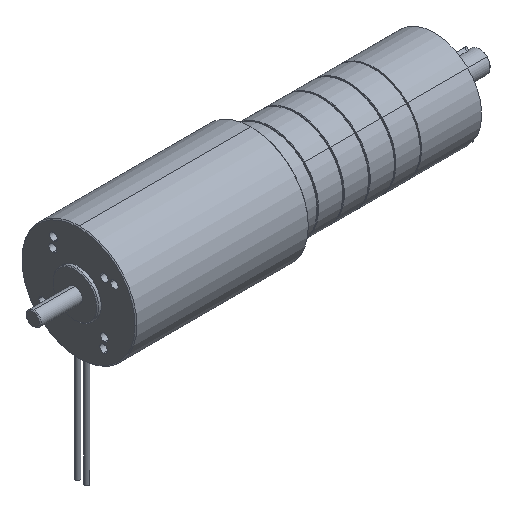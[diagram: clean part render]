
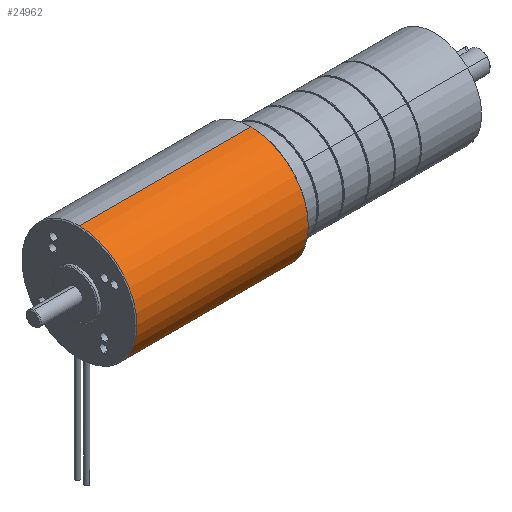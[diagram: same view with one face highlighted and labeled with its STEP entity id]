
A CAD part, isometric view. The second image highlights one B-rep face of the part: STEP entity #24962.
In plain terms, the highlighted cylindrical face has radius 31.5 mm (diameter 63 mm), a partial arc.
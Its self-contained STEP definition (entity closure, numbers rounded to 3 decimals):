
#1273 = CARTESIAN_POINT ( 'NONE',  ( 27.762, -3.494, -31.306 ) ) ;
#2738 = EDGE_CURVE ( 'NONE', #33876, #54540, #15900, .T. ) ;
#2829 = CARTESIAN_POINT ( 'NONE',  ( 27.328, -1.283, -31.474 ) ) ;
#3499 = CARTESIAN_POINT ( 'NONE',  ( 27.629, -1.408, -31.469 ) ) ;
#3782 = CARTESIAN_POINT ( 'NONE',  ( 25.5, 0., 0. ) ) ;
#3826 = AXIS2_PLACEMENT_3D ( 'NONE', #7312, #44879, #23269 ) ;
#4876 = EDGE_LOOP ( 'NONE', ( #65923, #40496 ) ) ;
#5748 = CARTESIAN_POINT ( 'NONE',  ( 26.834, -3.75, -31.276 ) ) ;
#6089 = CARTESIAN_POINT ( 'NONE',  ( 25.783, -2.827, -31.373 ) ) ;
#6421 = CARTESIAN_POINT ( 'NONE',  ( 25.75, -2.663, -31.388 ) ) ;
#7312 = CARTESIAN_POINT ( 'NONE',  ( 119.5, 0., 0. ) ) ;
#7949 = CARTESIAN_POINT ( 'NONE',  ( 25.814, -2.098, -31.43 ) ) ;
#8309 = CARTESIAN_POINT ( 'NONE',  ( 26.37, -1.408, -31.469 ) ) ;
#8667 = CARTESIAN_POINT ( 'NONE',  ( 26.673, -1.282, -31.474 ) ) ;
#9314 = LINE ( 'NONE', #41021, #24595 ) ;
#10894 = CARTESIAN_POINT ( 'NONE',  ( 26.23, -3.498, -31.305 ) ) ;
#11470 = DIRECTION ( 'NONE',  ( 0., 0., 1. ) ) ;
#13008 = ORIENTED_EDGE ( 'NONE', *, *, #26313, .F. ) ;
#13072 = B_SPLINE_CURVE_WITH_KNOTS ( 'NONE', 3,
 ( #27710, #43460, #64436, #17310, #50719, #19407, #51044, #24951, #3499, #2829, #30076, #40397, #8667, #8309, #51398, #55485, #50020, #7949, #34600, #39719, #29067, #29422 ),
 .UNSPECIFIED., .F., .F.,
 ( 4, 2, 2, 2, 2, 2, 2, 2, 2, 2, 4 ),
 ( 0., 0., 0.001, 0.001, 0.001, 0.002, 0.002, 0.003, 0.003, 0.004, 0.004 ),
 .UNSPECIFIED. ) ;
#13745 = CIRCLE ( 'NONE', #22597, 31.5 ) ;
#15900 = CIRCLE ( 'NONE', #3826, 31.5 ) ;
#16322 = CARTESIAN_POINT ( 'NONE',  ( -195.728, 0., 0. ) ) ;
#17134 = CARTESIAN_POINT ( 'NONE',  ( 28.217, -2.829, -31.373 ) ) ;
#17298 = EDGE_CURVE ( 'NONE', #17820, #52734, #13072, .T. ) ;
#17310 = CARTESIAN_POINT ( 'NONE',  ( 28.124, -1.946, -31.44 ) ) ;
#17820 = VERTEX_POINT ( 'NONE', #65618 ) ;
#18133 = CARTESIAN_POINT ( 'NONE',  ( 25.5, 0., -31.5 ) ) ;
#18326 = VECTOR ( 'NONE', #32851, 1000. ) ;
#19407 = CARTESIAN_POINT ( 'NONE',  ( 27.995, -1.739, -31.452 ) ) ;
#19541 = FACE_BOUND ( 'NONE', #4876, .T. ) ;
#21696 = CARTESIAN_POINT ( 'NONE',  ( 27.826, -3.441, -31.312 ) ) ;
#22027 = CARTESIAN_POINT ( 'NONE',  ( 26., -3.267, -31.33 ) ) ;
#22350 = CARTESIAN_POINT ( 'NONE',  ( 28.25, -2.665, -31.387 ) ) ;
#22597 = AXIS2_PLACEMENT_3D ( 'NONE', #3782, #30363, #51347 ) ;
#22693 = CARTESIAN_POINT ( 'NONE',  ( 28.092, -3.129, -31.345 ) ) ;
#23196 = AXIS2_PLACEMENT_3D ( 'NONE', #16322, #43166, #11470 ) ;
#23269 = DIRECTION ( 'NONE',  ( 0., 0., 1. ) ) ;
#24216 = CARTESIAN_POINT ( 'NONE',  ( 25.5, 0., 31.5 ) ) ;
#24595 = VECTOR ( 'NONE', #51379, 1000. ) ;
#24951 = CARTESIAN_POINT ( 'NONE',  ( 27.769, -1.501, -31.464 ) ) ;
#24962 = ADVANCED_FACE ( 'NONE', ( #66592, #19541 ), #56285, .T. ) ;
#26313 = EDGE_CURVE ( 'NONE', #33876, #68007, #9314, .T. ) ;
#27196 = CARTESIAN_POINT ( 'NONE',  ( 27.327, -3.718, -31.28 ) ) ;
#27531 = CARTESIAN_POINT ( 'NONE',  ( 26.368, -3.591, -31.295 ) ) ;
#27710 = CARTESIAN_POINT ( 'NONE',  ( 28.25, -2.5, -31.401 ) ) ;
#29067 = CARTESIAN_POINT ( 'NONE',  ( 25.75, -2.419, -31.407 ) ) ;
#29422 = CARTESIAN_POINT ( 'NONE',  ( 25.75, -2.5, -31.401 ) ) ;
#30076 = CARTESIAN_POINT ( 'NONE',  ( 27.164, -1.25, -31.475 ) ) ;
#30363 = DIRECTION ( 'NONE',  ( 1., 0., 0. ) ) ;
#31539 = CARTESIAN_POINT ( 'NONE',  ( 119.5, 0., -31.5 ) ) ;
#32533 = ORIENTED_EDGE ( 'NONE', *, *, #2738, .T. ) ;
#32851 = DIRECTION ( 'NONE',  ( -1., 0., 0. ) ) ;
#33876 = VERTEX_POINT ( 'NONE', #31539 ) ;
#34600 = CARTESIAN_POINT ( 'NONE',  ( 25.79, -2.176, -31.425 ) ) ;
#37708 = LINE ( 'NONE', #59265, #18326 ) ;
#39719 = CARTESIAN_POINT ( 'NONE',  ( 25.758, -2.336, -31.413 ) ) ;
#40397 = CARTESIAN_POINT ( 'NONE',  ( 26.837, -1.25, -31.475 ) ) ;
#40496 = ORIENTED_EDGE ( 'NONE', *, *, #67327, .T. ) ;
#40859 = VERTEX_POINT ( 'NONE', #24216 ) ;
#41021 = CARTESIAN_POINT ( 'NONE',  ( -195.728, 0., -31.5 ) ) ;
#41616 = EDGE_LOOP ( 'NONE', ( #13008, #32533, #55845, #46116 ) ) ;
#42254 = CARTESIAN_POINT ( 'NONE',  ( 25.75, -2.5, -31.401 ) ) ;
#42940 = CARTESIAN_POINT ( 'NONE',  ( 27.626, -3.585, -31.295 ) ) ;
#43166 = DIRECTION ( 'NONE',  ( -1., 0., 0. ) ) ;
#43277 = CARTESIAN_POINT ( 'NONE',  ( 27.999, -3.268, -31.33 ) ) ;
#43460 = CARTESIAN_POINT ( 'NONE',  ( 28.25, -2.335, -31.414 ) ) ;
#44304 = B_SPLINE_CURVE_WITH_KNOTS ( 'NONE', 3,
 ( #42254, #6421, #6089, #63242, #22027, #10894, #27531, #58074, #5748, #48139, #27196, #47794, #42940, #1273, #21696, #43277, #22693, #17134, #22350, #59095 ),
 .UNSPECIFIED., .F., .F.,
 ( 4, 2, 2, 2, 2, 2, 2, 2, 2, 4 ),
 ( 0.004, 0.004, 0.005, 0.005, 0.006, 0.006, 0.007, 0.007, 0.007, 0.008 ),
 .UNSPECIFIED. ) ;
#44879 = DIRECTION ( 'NONE',  ( -1., 0., 0. ) ) ;
#46116 = ORIENTED_EDGE ( 'NONE', *, *, #49012, .T. ) ;
#47794 = CARTESIAN_POINT ( 'NONE',  ( 27.554, -3.623, -31.291 ) ) ;
#48139 = CARTESIAN_POINT ( 'NONE',  ( 27.164, -3.75, -31.276 ) ) ;
#49012 = EDGE_CURVE ( 'NONE', #40859, #68007, #13745, .T. ) ;
#50020 = CARTESIAN_POINT ( 'NONE',  ( 25.907, -1.871, -31.445 ) ) ;
#50582 = EDGE_CURVE ( 'NONE', #54540, #40859, #37708, .T. ) ;
#50719 = CARTESIAN_POINT ( 'NONE',  ( 28.085, -1.875, -31.444 ) ) ;
#51044 = CARTESIAN_POINT ( 'NONE',  ( 27.942, -1.674, -31.456 ) ) ;
#51347 = DIRECTION ( 'NONE',  ( 0., 0., -1. ) ) ;
#51379 = DIRECTION ( 'NONE',  ( -1., 0., 0. ) ) ;
#51398 = CARTESIAN_POINT ( 'NONE',  ( 26.232, -1.5, -31.464 ) ) ;
#52734 = VERTEX_POINT ( 'NONE', #65783 ) ;
#54540 = VERTEX_POINT ( 'NONE', #65803 ) ;
#55485 = CARTESIAN_POINT ( 'NONE',  ( 25.999, -1.733, -31.452 ) ) ;
#55845 = ORIENTED_EDGE ( 'NONE', *, *, #50582, .T. ) ;
#56285 = CYLINDRICAL_SURFACE ( 'NONE', #23196, 31.5 ) ;
#58074 = CARTESIAN_POINT ( 'NONE',  ( 26.671, -3.717, -31.28 ) ) ;
#59095 = CARTESIAN_POINT ( 'NONE',  ( 28.25, -2.5, -31.401 ) ) ;
#59265 = CARTESIAN_POINT ( 'NONE',  ( -195.728, 0., 31.5 ) ) ;
#63242 = CARTESIAN_POINT ( 'NONE',  ( 25.907, -3.128, -31.345 ) ) ;
#64436 = CARTESIAN_POINT ( 'NONE',  ( 28.218, -2.173, -31.425 ) ) ;
#65618 = CARTESIAN_POINT ( 'NONE',  ( 28.25, -2.5, -31.401 ) ) ;
#65783 = CARTESIAN_POINT ( 'NONE',  ( 25.75, -2.5, -31.401 ) ) ;
#65803 = CARTESIAN_POINT ( 'NONE',  ( 119.5, 0., 31.5 ) ) ;
#65923 = ORIENTED_EDGE ( 'NONE', *, *, #17298, .T. ) ;
#66592 = FACE_OUTER_BOUND ( 'NONE', #41616, .T. ) ;
#67327 = EDGE_CURVE ( 'NONE', #52734, #17820, #44304, .T. ) ;
#68007 = VERTEX_POINT ( 'NONE', #18133 ) ;
